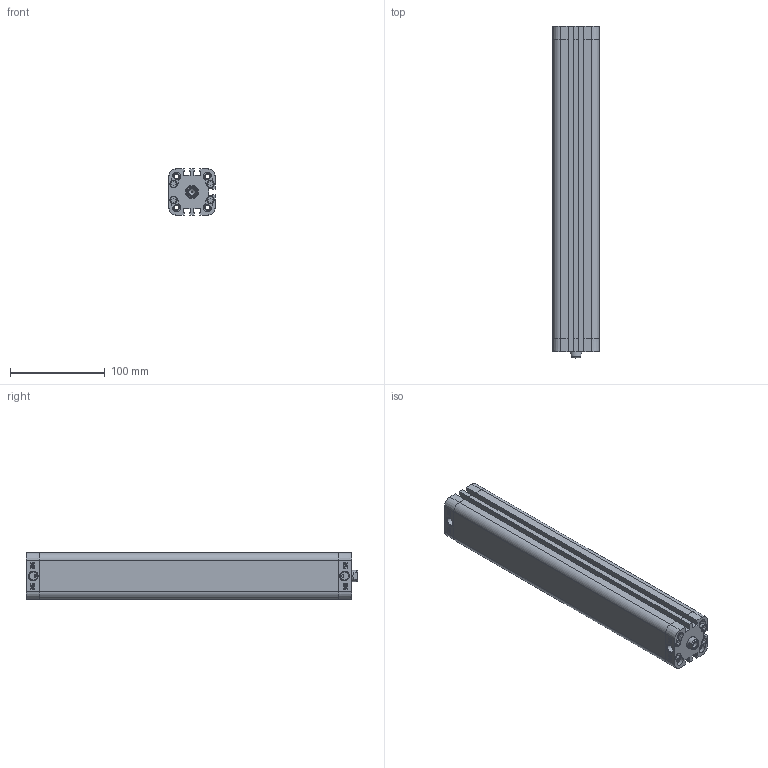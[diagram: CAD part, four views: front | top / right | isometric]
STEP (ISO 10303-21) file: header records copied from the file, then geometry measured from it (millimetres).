
FILE_DESCRIPTION((''),'2;1');
FILE_NAME('T:\Archivio Inventor\- CATALOGHI 2012\SERIE P - NUOVA\PDM\PDM032\PDM032.---.GS.F\PDM032.300.GS.F.stp','2013-01-31T14:33:48',('Administrator'),(''),'Autodesk Inventor 2012','Autodesk Inventor 2012','');
FILE_SCHEMA(('CONFIG_CONTROL_DESIGN'));
Length unit declared in the file: millimetre
Products named in the file (1): PDM032.300.GS.F
Bounding box: 49 x 350.2 x 49 mm (x, y, z)
Volume: 362558.3 mm3; surface area: 185704.6 mm2
Topology: 1 solids, 5 shells, 636 faces, 1566 edges, 1004 vertices
Faces by surface type: plane 280, bspline 164, cylinder 113, torus 44, cone 35
Full cylindrical faces by diameter (mm): 2.5 x2, 4.917 x8, 5.2 x4, 6.317 x4, 6.647 x1, 7.5 x8, 8.566 x2, 9 x1, 12 x1, 12.5 x1, 32 x1, 34.3 x1, 34.5 x1
Entity records: 20852 total; most frequent: CARTESIAN_POINT 6640, ORIENTED_EDGE 2926, DIRECTION 2330, EDGE_CURVE 1463, VERTEX_POINT 979, VECTOR 828, LINE 828, EDGE_LOOP 788
